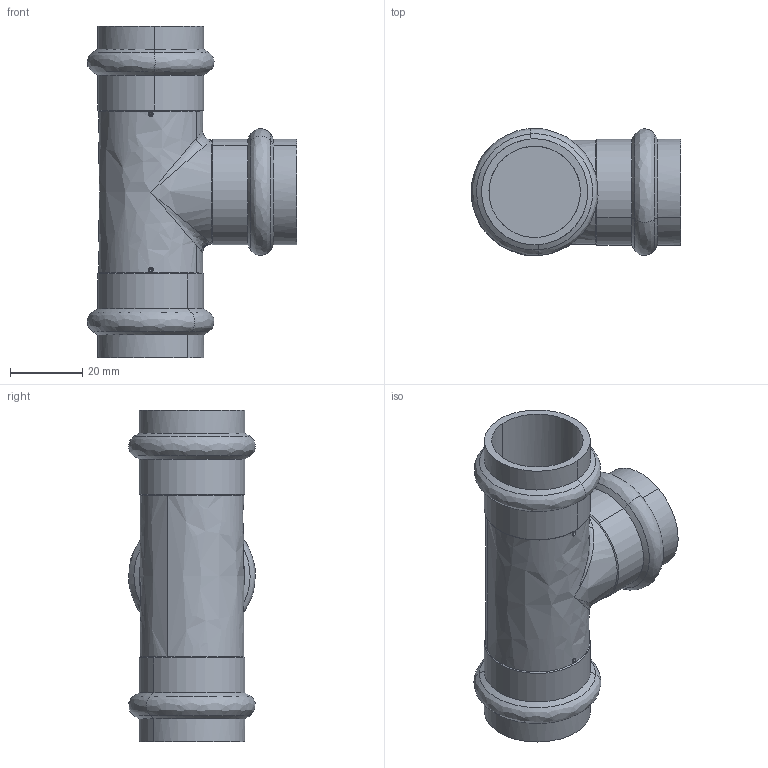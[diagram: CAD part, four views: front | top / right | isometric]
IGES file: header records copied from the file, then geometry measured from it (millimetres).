
Start section: 3D InterOp IGES (Version 25 0 1), Spatial Corp. Copyright (c) 1999-2007.
Global section: file name: pim0004518.igs; native system: Spatial Corp.; preprocessor: 3D InterOp ACIS/IGES; author: Cad-Pim; organization: TransMagic, Inc.; date: 20150430.084552; units: millimetre
Bounding box: 58.08 x 35.18 x 92 mm (x, y, z)
Volume: 49920 mm3; surface area: 19064.6 mm2
Topology: 1 solids, 1 shells, 72 faces, 188 edges, 121 vertices
Faces by surface type: bspline 38, cylinder 18, cone 16
